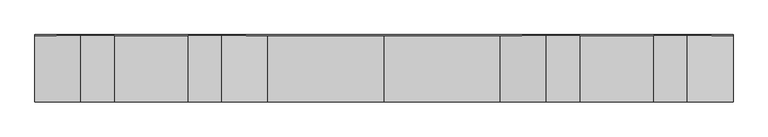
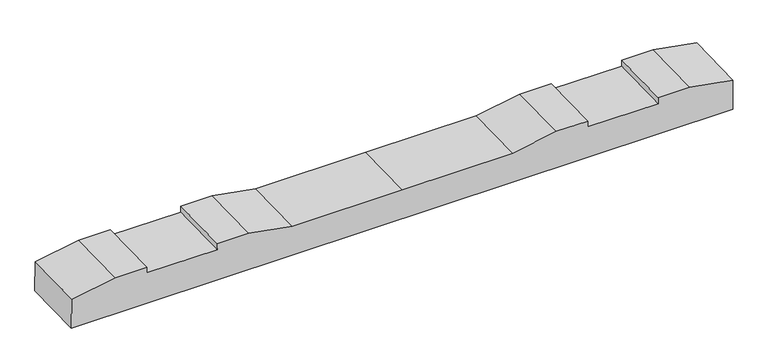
"""IFC4 building model written with IfcOpenShell, lengths in millimetres: proxy geometry, 轨枕-立面角度 : 轨枕-立面角度."""

from ifc_helpers import new_model, si_unit, frame, origin, place, context, project, spatial, polyline, outline, extrude, source, transform, mapped, element, save


def generic_models_0c9b72dc(model_context):
    return source(origin(), model_context, "Body", "SweptSolid", [
        extrude(outline(polyline([(0.0, 0.0), (2099.7669328, 0.0), (2099.7669328, -100.0206889), (1961.8834664, -124.5), (1861.8834664, -124.5), (1861.8834664, -104.5), (1637.8834664, -104.5), (1637.8834664, -124.5), (1537.8834664, -124.5), (1399.8834664, -99.9999999), (1049.8834664, -99.9999999), (699.8834664, -99.9999999), (561.8834664, -124.5), (461.8834664, -124.5), (461.8834664, -104.5), (237.8834664, -104.5), (237.8834664, -124.5), (137.8834664, -124.5), (0.0, -100.0206889), (0.0, 0.0)])), frame((-1049.8834664, -97.5966562, -106.7480337), z_axis=(0.0, 0.9997411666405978, 0.022750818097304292), x_axis=(1.0, 0.0, 0.0)), (0.0, 0.0, 1.0), 200.0),
    ])


if __name__ == "__main__":
    model = new_model("IFC4")
    model_context = context("Model", 3, world=origin())
    ifc_project = project(units=[si_unit("LENGTHUNIT", "METRE", prefix="MILLI")], contexts=[model_context])
    site = spatial("IfcSite", under=ifc_project)
    building = spatial("IfcBuilding", under=site)
    placement = place(None, origin())
    generic_models_shape = generic_models_0c9b72dc(model_context)
    element("IfcBuildingElementProxy", 1, Name="轨枕-立面角度 : 轨枕-立面角度", ObjectType="轨枕-立面角度 : 轨枕-立面角度", at=placement, inside=building, context=model_context, shape_type="MappedRepresentation", body=[
        mapped(generic_models_shape, transform((0.0, 0.0, 0.0), x_axis=(1.0, 0.0, 0.0), y_axis=(0.0, 1.0, 0.0), z_axis=(0.0, 0.0, 1.0))),
    ])
    save(model, "model.ifc")
